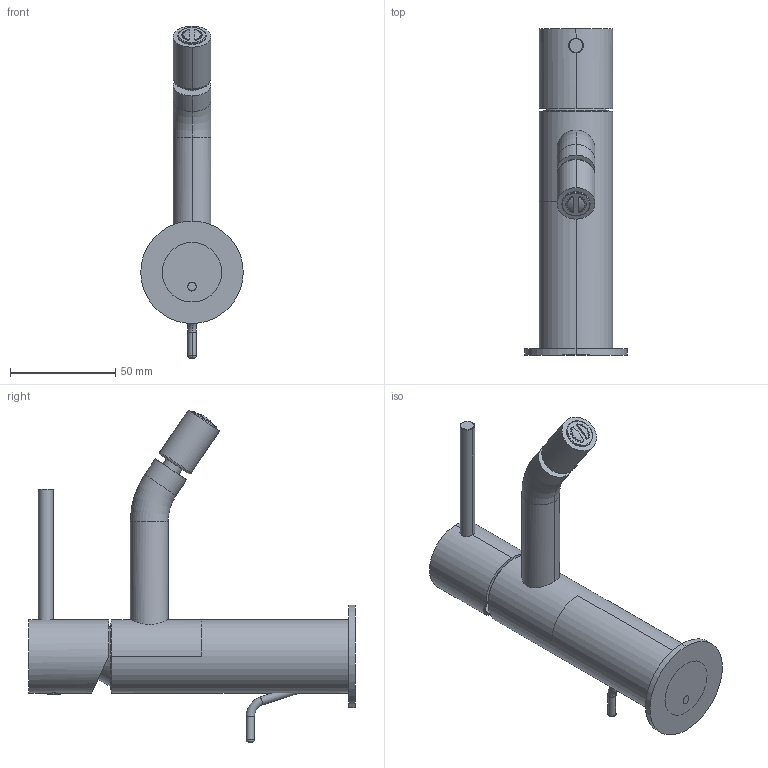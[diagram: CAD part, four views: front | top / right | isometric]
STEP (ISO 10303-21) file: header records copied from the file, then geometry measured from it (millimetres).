
FILE_DESCRIPTION((''),'2;1');
FILE_NAME('6940321_SW0001','2024-02-15T14:43:49',('carloff'),(''),'CREO PARAMETRIC BY PTC INC, 2022014','CREO PARAMETRIC BY PTC INC, 2022014','');
FILE_SCHEMA(('CONFIG_CONTROL_DESIGN'));
Length unit declared in the file: millimetre
Products named in the file (1): 6940321_SW0001
Bounding box: 48.8 x 155.3 x 158.06 mm (x, y, z)
Volume: 103485.7 mm3; surface area: 48308.9 mm2
Topology: 2 solids, 2 shells, 372 faces, 997 edges, 634 vertices
Faces by surface type: torus 112, plane 104, cylinder 104, cone 36, sphere 12, bspline 4
Entity records: 13095 total; most frequent: CARTESIAN_POINT 3849, DIRECTION 1978, ORIENTED_EDGE 1960, EDGE_CURVE 980, AXIS2_PLACEMENT_3D 852, VERTEX_POINT 632, CIRCLE 484, EDGE_LOOP 400
